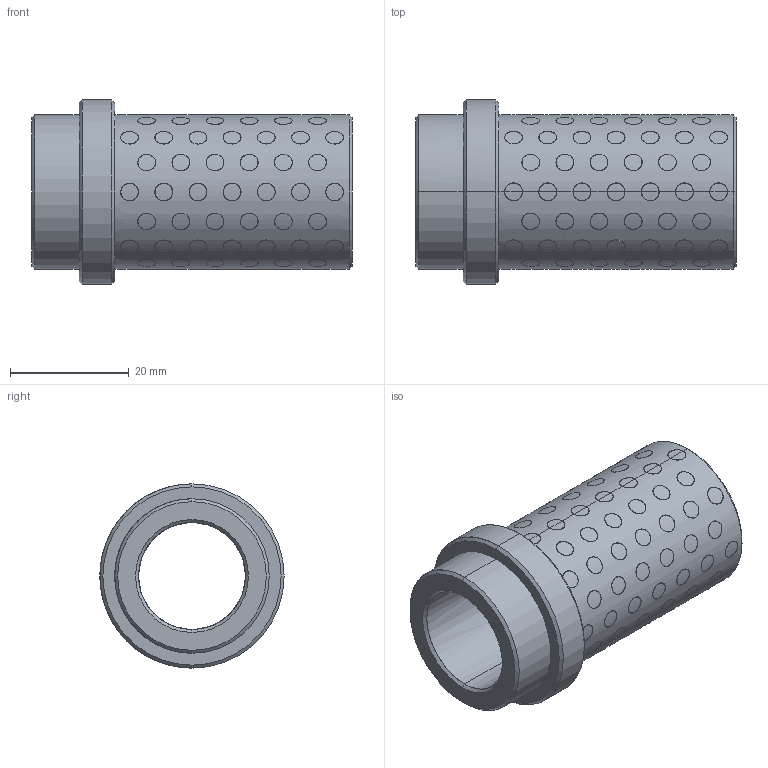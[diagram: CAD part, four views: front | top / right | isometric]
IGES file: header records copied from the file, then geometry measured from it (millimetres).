
Start section: START RECORD GO HERE.
Global section: file name: G31218046.igs; native system: DASSAULT SYSTEMES CATIA V5 R20 - www.3ds.com; preprocessor: CATIA Version 5 Release 20 ; author: r.borello; organization: CFTORINO; date: 20190624.121741; units: millimetre
Bounding box: 54 x 31 x 31 mm (x, y, z)
Surface area: 16184.9 mm2 (no closed solid volume)
Topology: 0 solids, 0 shells, 676 faces, 2928 edges, 2928 vertices
Faces by surface type: revolution 672, plane 4
